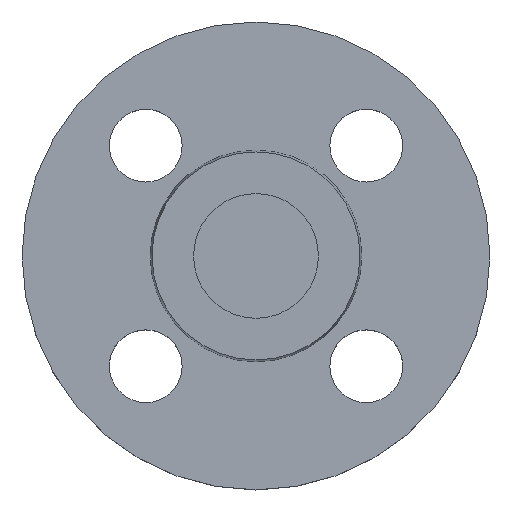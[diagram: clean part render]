
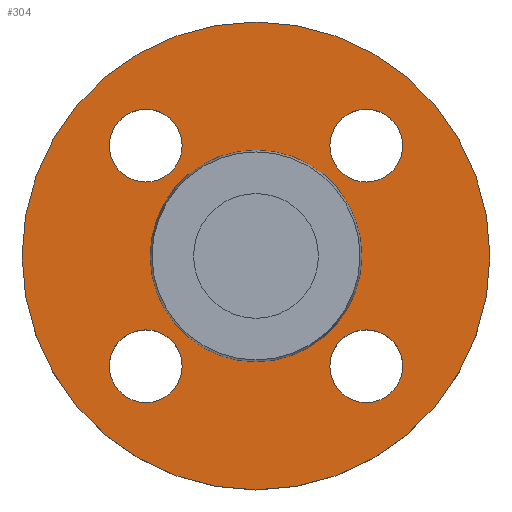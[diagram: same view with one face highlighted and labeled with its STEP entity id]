
A CAD part, top view. The second image highlights one B-rep face of the part: STEP entity #304.
In plain terms, the highlighted planar face has unit normal (0, 0, 1).
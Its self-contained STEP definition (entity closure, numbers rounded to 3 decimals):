
#3 = AXIS2_PLACEMENT_3D ( 'NONE', #172, #173, #174 ) ;
#6 = EDGE_CURVE ( 'NONE', #242, #375, #213, .T. ) ;
#7 = AXIS2_PLACEMENT_3D ( 'NONE', #527, #528, #530 ) ;
#12 = AXIS2_PLACEMENT_3D ( 'NONE', #154, #155, #156 ) ;
#14 = AXIS2_PLACEMENT_3D ( 'NONE', #175, #176, #177 ) ;
#16 = CIRCLE ( 'NONE', #14, 45. ) ;
#18 = AXIS2_PLACEMENT_3D ( 'NONE', #182, #183, #185 ) ;
#23 = CIRCLE ( 'NONE', #24, 7. ) ;
#24 = AXIS2_PLACEMENT_3D ( 'NONE', #512, #513, #514 ) ;
#25 = CIRCLE ( 'NONE', #18, 20.353 ) ;
#27 = AXIS2_PLACEMENT_3D ( 'NONE', #578, #579, #580 ) ;
#30 = CIRCLE ( 'NONE', #12, 7. ) ;
#32 = AXIS2_PLACEMENT_3D ( 'NONE', #396, #397, #398 ) ;
#36 = CIRCLE ( 'NONE', #3, 7. ) ;
#40 = CIRCLE ( 'NONE', #127, 20.353 ) ;
#53 = CIRCLE ( 'NONE', #7, 7. ) ;
#72 = AXIS2_PLACEMENT_3D ( 'NONE', #548, #549, #550 ) ;
#82 = AXIS2_PLACEMENT_3D ( 'NONE', #113, #110, #115 ) ;
#87 = AXIS2_PLACEMENT_3D ( 'NONE', #197, #198, #199 ) ;
#101 = EDGE_CURVE ( 'NONE', #265, #301, #262, .T. ) ;
#110 = DIRECTION ( 'NONE',  ( 0., 0., 1. ) ) ;
#113 = CARTESIAN_POINT ( 'NONE',  ( 20.353, 0., -2. ) ) ;
#115 = DIRECTION ( 'NONE',  ( 1., 0., 0. ) ) ;
#127 = AXIS2_PLACEMENT_3D ( 'NONE', #209, #210, #211 ) ;
#129 = EDGE_CURVE ( 'NONE', #261, #266, #23, .T. ) ;
#134 = CIRCLE ( 'NONE', #72, 7. ) ;
#136 = PLANE ( 'NONE',  #82 ) ;
#142 = CARTESIAN_POINT ( 'NONE',  ( -20.353, 0., -2. ) ) ;
#148 = CARTESIAN_POINT ( 'NONE',  ( -14.213, 21.213, -2. ) ) ;
#154 = CARTESIAN_POINT ( 'NONE',  ( 21.213, -21.213, -2. ) ) ;
#155 = DIRECTION ( 'NONE',  ( 0., 0., -1. ) ) ;
#156 = DIRECTION ( 'NONE',  ( 1., 0., 0. ) ) ;
#163 = EDGE_CURVE ( 'NONE', #260, #349, #53, .T. ) ;
#164 = CARTESIAN_POINT ( 'NONE',  ( 14.213, -21.213, -2. ) ) ;
#172 = CARTESIAN_POINT ( 'NONE',  ( 21.213, 21.213, -2. ) ) ;
#173 = DIRECTION ( 'NONE',  ( 0., 0., -1. ) ) ;
#174 = DIRECTION ( 'NONE',  ( 1., 0., 0. ) ) ;
#175 = CARTESIAN_POINT ( 'NONE',  ( 0., 0., -2. ) ) ;
#176 = DIRECTION ( 'NONE',  ( 0., 0., -1. ) ) ;
#177 = DIRECTION ( 'NONE',  ( -1., 0., 0. ) ) ;
#182 = CARTESIAN_POINT ( 'NONE',  ( 0., 0., -2. ) ) ;
#183 = DIRECTION ( 'NONE',  ( 0., 0., -1. ) ) ;
#185 = DIRECTION ( 'NONE',  ( -1., 0., 0. ) ) ;
#197 = CARTESIAN_POINT ( 'NONE',  ( -21.213, 21.213, -2. ) ) ;
#198 = DIRECTION ( 'NONE',  ( 0., 0., -1. ) ) ;
#199 = DIRECTION ( 'NONE',  ( 1., 0., 0. ) ) ;
#209 = CARTESIAN_POINT ( 'NONE',  ( 0., 0., -2. ) ) ;
#210 = DIRECTION ( 'NONE',  ( 0., 0., -1. ) ) ;
#211 = DIRECTION ( 'NONE',  ( -1., 0., 0. ) ) ;
#213 = CIRCLE ( 'NONE', #32, 7. ) ;
#231 = EDGE_CURVE ( 'NONE', #266, #261, #134, .T. ) ;
#232 = AXIS2_PLACEMENT_3D ( 'NONE', #485, #486, #487 ) ;
#235 = EDGE_LOOP ( 'NONE', ( #320, #321 ) ) ;
#238 = EDGE_LOOP ( 'NONE', ( #386, #315 ) ) ;
#242 = VERTEX_POINT ( 'NONE', #553 ) ;
#243 = VERTEX_POINT ( 'NONE', #554 ) ;
#252 = VERTEX_POINT ( 'NONE', #558 ) ;
#253 = EDGE_LOOP ( 'NONE', ( #316, #317 ) ) ;
#260 = VERTEX_POINT ( 'NONE', #571 ) ;
#261 = VERTEX_POINT ( 'NONE', #572 ) ;
#262 = CIRCLE ( 'NONE', #232, 7. ) ;
#264 = VERTEX_POINT ( 'NONE', #573 ) ;
#265 = VERTEX_POINT ( 'NONE', #574 ) ;
#266 = VERTEX_POINT ( 'NONE', #576 ) ;
#279 = EDGE_CURVE ( 'NONE', #243, #264, #529, .T. ) ;
#301 = VERTEX_POINT ( 'NONE', #587 ) ;
#304 = ADVANCED_FACE ( 'NONE', ( #590, #592, #593, #594, #595, #596 ), #136, .T. ) ;
#311 = ORIENTED_EDGE ( 'NONE', *, *, #6, .T. ) ;
#312 = VERTEX_POINT ( 'NONE', #142 ) ;
#313 = ORIENTED_EDGE ( 'NONE', *, *, #366, .T. ) ;
#315 = ORIENTED_EDGE ( 'NONE', *, *, #163, .T. ) ;
#316 = ORIENTED_EDGE ( 'NONE', *, *, #101, .T. ) ;
#317 = ORIENTED_EDGE ( 'NONE', *, *, #407, .T. ) ;
#318 = ORIENTED_EDGE ( 'NONE', *, *, #430, .T. ) ;
#319 = ORIENTED_EDGE ( 'NONE', *, *, #575, .T. ) ;
#320 = ORIENTED_EDGE ( 'NONE', *, *, #279, .F. ) ;
#321 = ORIENTED_EDGE ( 'NONE', *, *, #412, .F. ) ;
#334 = EDGE_LOOP ( 'NONE', ( #318, #319 ) ) ;
#349 = VERTEX_POINT ( 'NONE', #148 ) ;
#366 = EDGE_CURVE ( 'NONE', #375, #242, #30, .T. ) ;
#374 = EDGE_LOOP ( 'NONE', ( #388, #387 ) ) ;
#375 = VERTEX_POINT ( 'NONE', #164 ) ;
#378 = EDGE_LOOP ( 'NONE', ( #311, #313 ) ) ;
#386 = ORIENTED_EDGE ( 'NONE', *, *, #510, .T. ) ;
#387 = ORIENTED_EDGE ( 'NONE', *, *, #129, .T. ) ;
#388 = ORIENTED_EDGE ( 'NONE', *, *, #231, .T. ) ;
#396 = CARTESIAN_POINT ( 'NONE',  ( 21.213, -21.213, -2. ) ) ;
#397 = DIRECTION ( 'NONE',  ( 0., 0., -1. ) ) ;
#398 = DIRECTION ( 'NONE',  ( 1., 0., 0. ) ) ;
#407 = EDGE_CURVE ( 'NONE', #301, #265, #36, .T. ) ;
#412 = EDGE_CURVE ( 'NONE', #264, #243, #16, .T. ) ;
#430 = EDGE_CURVE ( 'NONE', #312, #252, #25, .T. ) ;
#485 = CARTESIAN_POINT ( 'NONE',  ( 21.213, 21.213, -2. ) ) ;
#486 = DIRECTION ( 'NONE',  ( 0., 0., -1. ) ) ;
#487 = DIRECTION ( 'NONE',  ( 1., 0., 0. ) ) ;
#510 = EDGE_CURVE ( 'NONE', #349, #260, #569, .T. ) ;
#512 = CARTESIAN_POINT ( 'NONE',  ( -21.213, -21.213, -2. ) ) ;
#513 = DIRECTION ( 'NONE',  ( 0., 0., -1. ) ) ;
#514 = DIRECTION ( 'NONE',  ( 1., 0., 0. ) ) ;
#527 = CARTESIAN_POINT ( 'NONE',  ( -21.213, 21.213, -2. ) ) ;
#528 = DIRECTION ( 'NONE',  ( 0., 0., -1. ) ) ;
#529 = CIRCLE ( 'NONE', #27, 45. ) ;
#530 = DIRECTION ( 'NONE',  ( 1., 0., 0. ) ) ;
#548 = CARTESIAN_POINT ( 'NONE',  ( -21.213, -21.213, -2. ) ) ;
#549 = DIRECTION ( 'NONE',  ( 0., 0., -1. ) ) ;
#550 = DIRECTION ( 'NONE',  ( 1., 0., 0. ) ) ;
#553 = CARTESIAN_POINT ( 'NONE',  ( 28.213, -21.213, -2. ) ) ;
#554 = CARTESIAN_POINT ( 'NONE',  ( 45., 0., -2. ) ) ;
#558 = CARTESIAN_POINT ( 'NONE',  ( 20.353, 0., -2. ) ) ;
#569 = CIRCLE ( 'NONE', #87, 7. ) ;
#571 = CARTESIAN_POINT ( 'NONE',  ( -28.213, 21.213, -2. ) ) ;
#572 = CARTESIAN_POINT ( 'NONE',  ( -28.213, -21.213, -2. ) ) ;
#573 = CARTESIAN_POINT ( 'NONE',  ( -45., 0., -2. ) ) ;
#574 = CARTESIAN_POINT ( 'NONE',  ( 28.213, 21.213, -2. ) ) ;
#575 = EDGE_CURVE ( 'NONE', #252, #312, #40, .T. ) ;
#576 = CARTESIAN_POINT ( 'NONE',  ( -14.213, -21.213, -2. ) ) ;
#578 = CARTESIAN_POINT ( 'NONE',  ( 0., 0., -2. ) ) ;
#579 = DIRECTION ( 'NONE',  ( 0., 0., -1. ) ) ;
#580 = DIRECTION ( 'NONE',  ( -1., 0., 0. ) ) ;
#587 = CARTESIAN_POINT ( 'NONE',  ( 14.213, 21.213, -2. ) ) ;
#590 = FACE_BOUND ( 'NONE', #378, .T. ) ;
#592 = FACE_BOUND ( 'NONE', #374, .T. ) ;
#593 = FACE_BOUND ( 'NONE', #238, .T. ) ;
#594 = FACE_BOUND ( 'NONE', #253, .T. ) ;
#595 = FACE_BOUND ( 'NONE', #334, .T. ) ;
#596 = FACE_OUTER_BOUND ( 'NONE', #235, .T. ) ;
